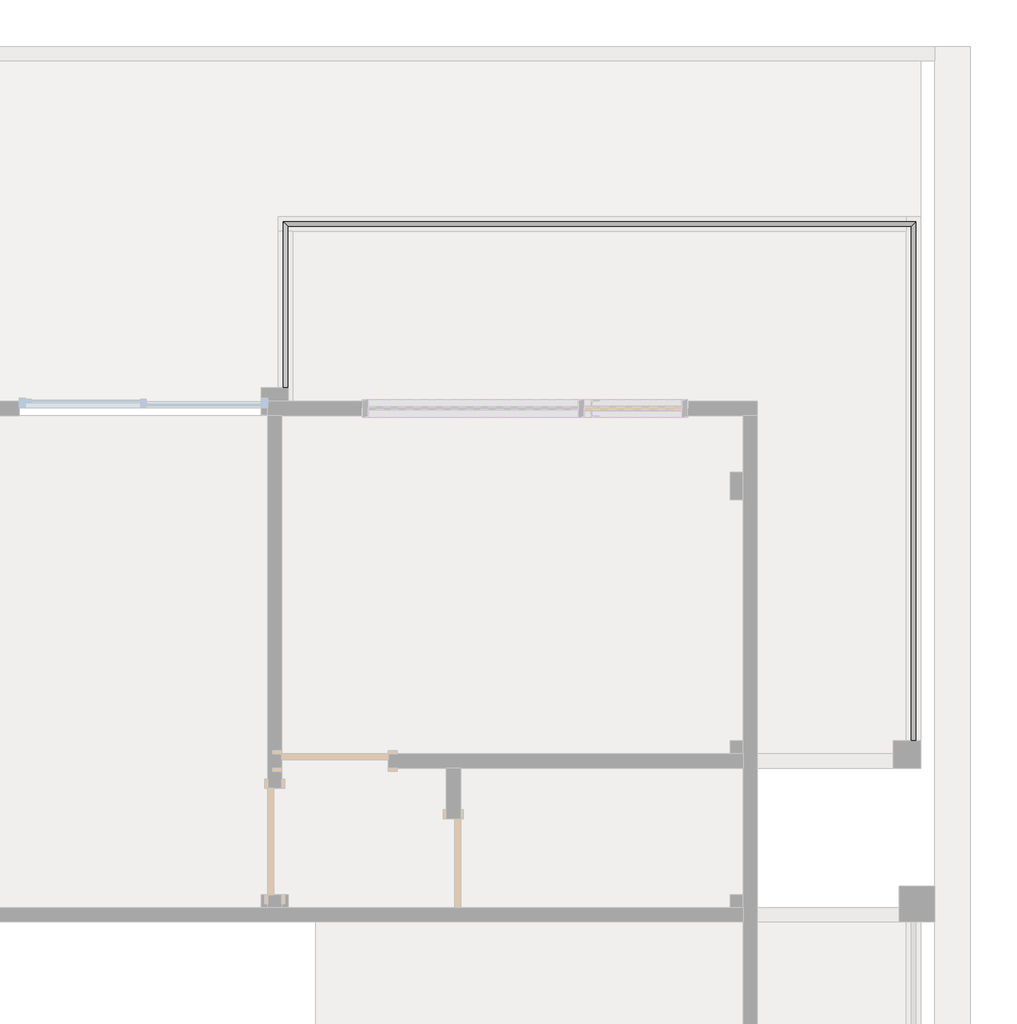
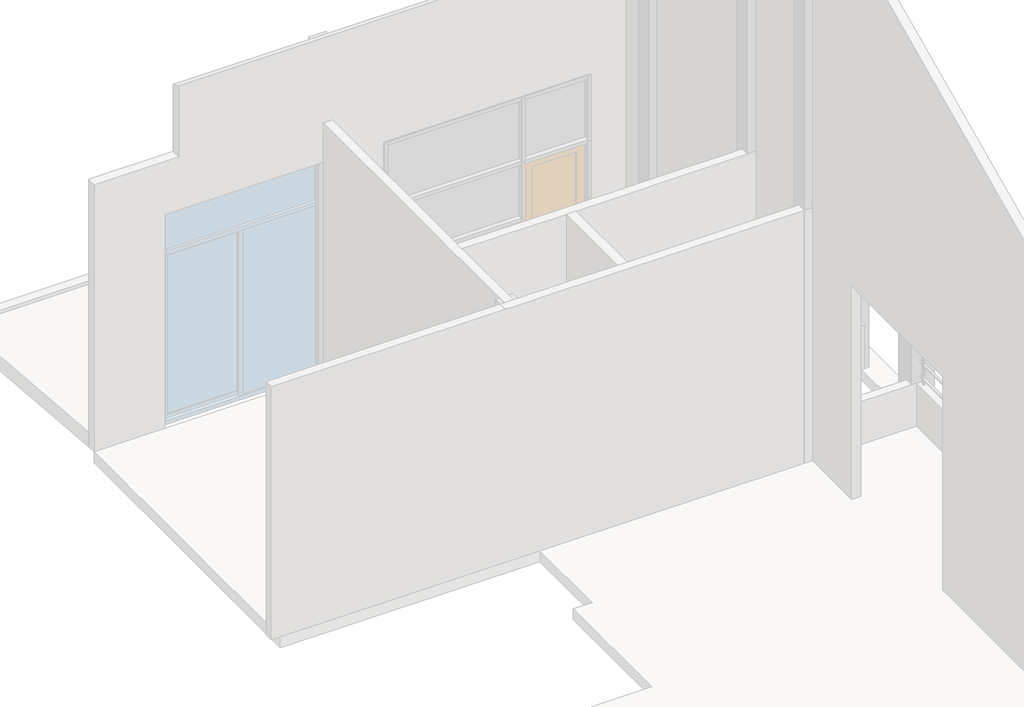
# One storey, part 6 of 6: 1 railing.
"""IFC4 building model written with IfcOpenShell, lengths in millimetres."""

from ifc_helpers import new_model, si_unit, point, frame, frame_2d, origin, place, context, project, spatial, circle_curve, ellipse_curve, trimmed, segment, composite_curve, outline, extrude, element, save
from ifc_brep_helpers import plane_surface, cylinder_surface, advanced_brep

model = new_model("IFC4")

# Units and contexts
model_context = context("Model", 3, world=origin())
ifc_project = project(units=[si_unit("LENGTHUNIT", "METRE", prefix="MILLI")], contexts=[model_context])

# Site, building, storey
site = spatial("IfcSite", under=ifc_project)
building = spatial("IfcBuilding", under=site)
storey = spatial("IfcBuildingStorey", under=building, Name="标高 2", Elevation=3900.0)

# Railing
placement = place(None, origin())
element("IfcRailing", 1, ObjectType="1100mm 圆管", at=placement, inside=storey, context=model_context, shape_type="SolidModel", body=[
    advanced_brep(
    [(4184.6008885, 10971.4406182, 4980.0), (4144.6008885, 10971.4406182, 4980.0), (4184.6008885, 12451.4406182, 4980.0), (4144.6008885, 12491.4406182, 4980.0), (9454.6008885, 12451.4406182, 4980.0), (9494.6008885, 12491.4406182, 4980.0), (9454.6008885, 8101.4406182, 4980.0), (9494.6008885, 8101.4406182, 4980.0)],
    [
        (0, 1, circle_curve(frame((4164.6008885, 10971.4406182, 4980.0), z_axis=(0.0, -1.0, 0.0), x_axis=(-1.0, 0.0, 0.0)), 20.0)),
        (1, 0, circle_curve(frame((4164.6008885, 10971.4406182, 4980.0), z_axis=(0.0, -1.0, 0.0), x_axis=(-1.0, 0.0, 0.0)), 20.0)),
        (0, 2),
        (2, 3, ellipse_curve(frame((4164.6008885, 12471.4406182, 4980.0), z_axis=(-0.7071067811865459, -0.7071067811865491, 0.0), x_axis=(0.7071067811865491, -0.7071067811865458, 0.0)), 28.2842712, 20.0)),
        (3, 1),
        (3, 2, ellipse_curve(frame((4164.6008885, 12471.4406182, 4980.0), z_axis=(-0.7071067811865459, -0.7071067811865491, 0.0), x_axis=(0.7071067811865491, -0.7071067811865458, 0.0)), 28.2842712, 20.0)),
        (2, 4),
        (4, 5, ellipse_curve(frame((9474.6008885, 12471.4406182, 4980.0), z_axis=(-0.7071067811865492, 0.7071067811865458, 0.0), x_axis=(-0.7071067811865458, -0.7071067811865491, 0.0)), 28.2842712, 20.0)),
        (5, 3),
        (5, 4, ellipse_curve(frame((9474.6008885, 12471.4406182, 4980.0), z_axis=(-0.7071067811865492, 0.7071067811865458, 0.0), x_axis=(-0.7071067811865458, -0.7071067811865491, 0.0)), 28.2842712, 20.0)),
        (6, 7, circle_curve(frame((9474.6008885, 8101.4406182, 4980.0), z_axis=(0.0, -1.0, 0.0), x_axis=(1.0, 0.0, 0.0)), 20.0)),
        (7, 6, circle_curve(frame((9474.6008885, 8101.4406182, 4980.0), z_axis=(0.0, -1.0, 0.0), x_axis=(1.0, 0.0, 0.0)), 20.0)),
        (4, 6),
        (7, 5),
    ],
    [
        plane_surface(frame((4164.6008885, 10971.4406182, 5000.0), z_axis=(0.0, -1.0, 0.0), x_axis=(0.0, 0.0, 1.0))),
        cylinder_surface(frame((4164.6008885, 10971.4406182, 4980.0), z_axis=(0.0, -1.0, 0.0), x_axis=(-1.0, 0.0, 0.0)), 20.0),
        cylinder_surface(frame((4164.6008885, 12471.4406182, 4980.0), z_axis=(-1.0, 0.0, 0.0), x_axis=(0.0, 1.0, 0.0)), 20.0),
        plane_surface(frame((9474.6008885, 8101.4406182, 5000.0), z_axis=(0.0, -1.0, 0.0), x_axis=(0.0, 0.0, -1.0))),
        cylinder_surface(frame((9474.6008885, 12471.4406182, 4980.0), z_axis=(0.0, 1.0, 0.0), x_axis=(1.0, 0.0, 0.0)), 20.0),
    ],
    [
        (0, [[1, 2]]),
        (1, [[-1, 3, 4, 5]]),
        (1, [[-2, -5, 6, -3]]),
        (2, [[-4, 7, 8, 9]]),
        (2, [[-6, -9, 10, -7]]),
        (3, [[11, 12]]),
        (4, [[-8, 13, -12, 14]]),
        (4, [[-10, -14, -11, -13]]),
    ],
),
    advanced_brep(
    [(4179.6008885, 10971.4406182, 4785.0), (4149.6008885, 10971.4406182, 4785.0), (4149.6008885, 12486.4406182, 4785.0), (4179.6008885, 12456.4406182, 4785.0), (9489.6008885, 12486.4406182, 4785.0), (9459.6008885, 12456.4406182, 4785.0), (9459.6008885, 8101.4406182, 4785.0), (9489.6008885, 8101.4406182, 4785.0)],
    [
        (0, 1, circle_curve(frame((4164.6008885, 10971.4406182, 4785.0), z_axis=(0.0, -1.0, 0.0), x_axis=(-1.0, 0.0, 0.0)), 15.0)),
        (1, 0, circle_curve(frame((4164.6008885, 10971.4406182, 4785.0), z_axis=(0.0, -1.0, 0.0), x_axis=(-1.0, 0.0, 0.0)), 15.0)),
        (1, 2),
        (2, 3, ellipse_curve(frame((4164.6008885, 12471.4406182, 4785.0), z_axis=(-0.7071067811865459, -0.7071067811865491, 0.0), x_axis=(0.7071067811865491, -0.7071067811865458, 0.0)), 21.2132034, 15.0)),
        (3, 0),
        (3, 2, ellipse_curve(frame((4164.6008885, 12471.4406182, 4785.0), z_axis=(-0.7071067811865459, -0.7071067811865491, 0.0), x_axis=(0.7071067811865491, -0.7071067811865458, 0.0)), 21.2132034, 15.0)),
        (2, 4),
        (4, 5, ellipse_curve(frame((9474.6008885, 12471.4406182, 4785.0), z_axis=(-0.7071067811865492, 0.7071067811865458, 0.0), x_axis=(-0.7071067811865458, -0.7071067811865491, 0.0)), 21.2132034, 15.0)),
        (5, 3),
        (5, 4, ellipse_curve(frame((9474.6008885, 12471.4406182, 4785.0), z_axis=(-0.7071067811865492, 0.7071067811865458, 0.0), x_axis=(-0.7071067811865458, -0.7071067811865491, 0.0)), 21.2132034, 15.0)),
        (6, 7, circle_curve(frame((9474.6008885, 8101.4406182, 4785.0), z_axis=(0.0, -1.0, 0.0), x_axis=(1.0, 0.0, 0.0)), 15.0)),
        (7, 6, circle_curve(frame((9474.6008885, 8101.4406182, 4785.0), z_axis=(0.0, -1.0, 0.0), x_axis=(1.0, 0.0, 0.0)), 15.0)),
        (4, 7),
        (6, 5),
    ],
    [
        plane_surface(frame((4164.6008885, 10971.4406182, 4800.0), z_axis=(0.0, -1.0, 0.0), x_axis=(0.0, 0.0, 1.0))),
        cylinder_surface(frame((4164.6008885, 10971.4406182, 4785.0), z_axis=(0.0, -1.0, 0.0), x_axis=(-1.0, 0.0, 0.0)), 15.0),
        cylinder_surface(frame((4164.6008885, 12471.4406182, 4785.0), z_axis=(-1.0, 0.0, 0.0), x_axis=(0.0, 1.0, 0.0)), 15.0),
        plane_surface(frame((9474.6008885, 8101.4406182, 4800.0), z_axis=(0.0, -1.0, 0.0), x_axis=(0.0, 0.0, -1.0))),
        cylinder_surface(frame((9474.6008885, 12471.4406182, 4785.0), z_axis=(0.0, 1.0, 0.0), x_axis=(1.0, 0.0, 0.0)), 15.0),
    ],
    [
        (0, [[1, 2]]),
        (1, [[-2, 3, 4, 5]]),
        (1, [[-1, -5, 6, -3]]),
        (2, [[-4, 7, 8, 9]]),
        (2, [[-6, -9, 10, -7]]),
        (3, [[11, 12]]),
        (4, [[-8, 13, -11, 14]]),
        (4, [[-10, -14, -12, -13]]),
    ],
),
    advanced_brep(
    [(4179.6008885, 10971.4406182, 4585.0), (4149.6008885, 10971.4406182, 4585.0), (4149.6008885, 12486.4406182, 4585.0), (4179.6008885, 12456.4406182, 4585.0), (9489.6008885, 12486.4406182, 4585.0), (9459.6008885, 12456.4406182, 4585.0), (9459.6008885, 8101.4406182, 4585.0), (9489.6008885, 8101.4406182, 4585.0)],
    [
        (0, 1, circle_curve(frame((4164.6008885, 10971.4406182, 4585.0), z_axis=(0.0, -1.0, 0.0), x_axis=(-1.0, 0.0, 0.0)), 15.0)),
        (1, 0, circle_curve(frame((4164.6008885, 10971.4406182, 4585.0), z_axis=(0.0, -1.0, 0.0), x_axis=(-1.0, 0.0, 0.0)), 15.0)),
        (1, 2),
        (2, 3, ellipse_curve(frame((4164.6008885, 12471.4406182, 4585.0), z_axis=(-0.7071067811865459, -0.7071067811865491, 0.0), x_axis=(0.7071067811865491, -0.7071067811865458, 0.0)), 21.2132034, 15.0)),
        (3, 0),
        (3, 2, ellipse_curve(frame((4164.6008885, 12471.4406182, 4585.0), z_axis=(-0.7071067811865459, -0.7071067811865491, 0.0), x_axis=(0.7071067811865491, -0.7071067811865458, 0.0)), 21.2132034, 15.0)),
        (2, 4),
        (4, 5, ellipse_curve(frame((9474.6008885, 12471.4406182, 4585.0), z_axis=(-0.7071067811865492, 0.7071067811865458, 0.0), x_axis=(-0.7071067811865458, -0.7071067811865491, 0.0)), 21.2132034, 15.0)),
        (5, 3),
        (5, 4, ellipse_curve(frame((9474.6008885, 12471.4406182, 4585.0), z_axis=(-0.7071067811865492, 0.7071067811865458, 0.0), x_axis=(-0.7071067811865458, -0.7071067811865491, 0.0)), 21.2132034, 15.0)),
        (6, 7, circle_curve(frame((9474.6008885, 8101.4406182, 4585.0), z_axis=(0.0, -1.0, 0.0), x_axis=(1.0, 0.0, 0.0)), 15.0)),
        (7, 6, circle_curve(frame((9474.6008885, 8101.4406182, 4585.0), z_axis=(0.0, -1.0, 0.0), x_axis=(1.0, 0.0, 0.0)), 15.0)),
        (4, 7),
        (6, 5),
    ],
    [
        plane_surface(frame((4164.6008885, 10971.4406182, 4600.0), z_axis=(0.0, -1.0, 0.0), x_axis=(0.0, 0.0, 1.0))),
        cylinder_surface(frame((4164.6008885, 10971.4406182, 4585.0), z_axis=(0.0, -1.0, 0.0), x_axis=(-1.0, 0.0, 0.0)), 15.0),
        cylinder_surface(frame((4164.6008885, 12471.4406182, 4585.0), z_axis=(-1.0, 0.0, 0.0), x_axis=(0.0, 1.0, 0.0)), 15.0),
        plane_surface(frame((9474.6008885, 8101.4406182, 4600.0), z_axis=(0.0, -1.0, 0.0), x_axis=(0.0, 0.0, -1.0))),
        cylinder_surface(frame((9474.6008885, 12471.4406182, 4585.0), z_axis=(0.0, 1.0, 0.0), x_axis=(1.0, 0.0, 0.0)), 15.0),
    ],
    [
        (0, [[1, 2]]),
        (1, [[-2, 3, 4, 5]]),
        (1, [[-1, -5, 6, -3]]),
        (2, [[-4, 7, 8, 9]]),
        (2, [[-6, -9, 10, -7]]),
        (3, [[11, 12]]),
        (4, [[-8, 13, -11, 14]]),
        (4, [[-10, -14, -12, -13]]),
    ],
),
    advanced_brep(
    [(4179.6008885, 10971.4406182, 4385.0), (4149.6008885, 10971.4406182, 4385.0), (4149.6008885, 12486.4406182, 4385.0), (4179.6008885, 12456.4406182, 4385.0), (9489.6008885, 12486.4406182, 4385.0), (9459.6008885, 12456.4406182, 4385.0), (9459.6008885, 8101.4406182, 4385.0), (9489.6008885, 8101.4406182, 4385.0)],
    [
        (0, 1, circle_curve(frame((4164.6008885, 10971.4406182, 4385.0), z_axis=(0.0, -1.0, 0.0), x_axis=(-1.0, 0.0, 0.0)), 15.0)),
        (1, 0, circle_curve(frame((4164.6008885, 10971.4406182, 4385.0), z_axis=(0.0, -1.0, 0.0), x_axis=(-1.0, 0.0, 0.0)), 15.0)),
        (1, 2),
        (2, 3, ellipse_curve(frame((4164.6008885, 12471.4406182, 4385.0), z_axis=(-0.7071067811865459, -0.7071067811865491, 0.0), x_axis=(0.7071067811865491, -0.7071067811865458, 0.0)), 21.2132034, 15.0)),
        (3, 0),
        (3, 2, ellipse_curve(frame((4164.6008885, 12471.4406182, 4385.0), z_axis=(-0.7071067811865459, -0.7071067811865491, 0.0), x_axis=(0.7071067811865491, -0.7071067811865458, 0.0)), 21.2132034, 15.0)),
        (2, 4),
        (4, 5, ellipse_curve(frame((9474.6008885, 12471.4406182, 4385.0), z_axis=(-0.7071067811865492, 0.7071067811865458, 0.0), x_axis=(-0.7071067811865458, -0.7071067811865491, 0.0)), 21.2132034, 15.0)),
        (5, 3),
        (5, 4, ellipse_curve(frame((9474.6008885, 12471.4406182, 4385.0), z_axis=(-0.7071067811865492, 0.7071067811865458, 0.0), x_axis=(-0.7071067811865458, -0.7071067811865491, 0.0)), 21.2132034, 15.0)),
        (6, 7, circle_curve(frame((9474.6008885, 8101.4406182, 4385.0), z_axis=(0.0, -1.0, 0.0), x_axis=(1.0, 0.0, 0.0)), 15.0)),
        (7, 6, circle_curve(frame((9474.6008885, 8101.4406182, 4385.0), z_axis=(0.0, -1.0, 0.0), x_axis=(1.0, 0.0, 0.0)), 15.0)),
        (4, 7),
        (6, 5),
    ],
    [
        plane_surface(frame((4164.6008885, 10971.4406182, 4400.0), z_axis=(0.0, -1.0, 0.0), x_axis=(0.0, 0.0, 1.0))),
        cylinder_surface(frame((4164.6008885, 10971.4406182, 4385.0), z_axis=(0.0, -1.0, 0.0), x_axis=(-1.0, 0.0, 0.0)), 15.0),
        cylinder_surface(frame((4164.6008885, 12471.4406182, 4385.0), z_axis=(-1.0, 0.0, 0.0), x_axis=(0.0, 1.0, 0.0)), 15.0),
        plane_surface(frame((9474.6008885, 8101.4406182, 4400.0), z_axis=(0.0, -1.0, 0.0), x_axis=(0.0, 0.0, -1.0))),
        cylinder_surface(frame((9474.6008885, 12471.4406182, 4385.0), z_axis=(0.0, 1.0, 0.0), x_axis=(1.0, 0.0, 0.0)), 15.0),
    ],
    [
        (0, [[1, 2]]),
        (1, [[-2, 3, 4, 5]]),
        (1, [[-1, -5, 6, -3]]),
        (2, [[-4, 7, 8, 9]]),
        (2, [[-6, -9, 10, -7]]),
        (3, [[11, 12]]),
        (4, [[-8, 13, -11, 14]]),
        (4, [[-10, -14, -12, -13]]),
    ],
),
    advanced_brep(
    [(4179.6008885, 10971.4406182, 4185.0), (4149.6008885, 10971.4406182, 4185.0), (4149.6008885, 12486.4406182, 4185.0), (4179.6008885, 12456.4406182, 4185.0), (9489.6008885, 12486.4406182, 4185.0), (9459.6008885, 12456.4406182, 4185.0), (9459.6008885, 8101.4406182, 4185.0), (9489.6008885, 8101.4406182, 4185.0)],
    [
        (0, 1, circle_curve(frame((4164.6008885, 10971.4406182, 4185.0), z_axis=(0.0, -1.0, 0.0), x_axis=(-1.0, 0.0, 0.0)), 15.0)),
        (1, 0, circle_curve(frame((4164.6008885, 10971.4406182, 4185.0), z_axis=(0.0, -1.0, 0.0), x_axis=(-1.0, 0.0, 0.0)), 15.0)),
        (1, 2),
        (2, 3, ellipse_curve(frame((4164.6008885, 12471.4406182, 4185.0), z_axis=(-0.7071067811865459, -0.7071067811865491, 0.0), x_axis=(0.7071067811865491, -0.7071067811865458, 0.0)), 21.2132034, 15.0)),
        (3, 0),
        (3, 2, ellipse_curve(frame((4164.6008885, 12471.4406182, 4185.0), z_axis=(-0.7071067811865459, -0.7071067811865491, 0.0), x_axis=(0.7071067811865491, -0.7071067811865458, 0.0)), 21.2132034, 15.0)),
        (2, 4),
        (4, 5, ellipse_curve(frame((9474.6008885, 12471.4406182, 4185.0), z_axis=(-0.7071067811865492, 0.7071067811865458, 0.0), x_axis=(-0.7071067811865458, -0.7071067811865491, 0.0)), 21.2132034, 15.0)),
        (5, 3),
        (5, 4, ellipse_curve(frame((9474.6008885, 12471.4406182, 4185.0), z_axis=(-0.7071067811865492, 0.7071067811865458, 0.0), x_axis=(-0.7071067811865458, -0.7071067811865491, 0.0)), 21.2132034, 15.0)),
        (6, 7, circle_curve(frame((9474.6008885, 8101.4406182, 4185.0), z_axis=(0.0, -1.0, 0.0), x_axis=(1.0, 0.0, 0.0)), 15.0)),
        (7, 6, circle_curve(frame((9474.6008885, 8101.4406182, 4185.0), z_axis=(0.0, -1.0, 0.0), x_axis=(1.0, 0.0, 0.0)), 15.0)),
        (4, 7),
        (6, 5),
    ],
    [
        plane_surface(frame((4164.6008885, 10971.4406182, 4200.0), z_axis=(0.0, -1.0, 0.0), x_axis=(0.0, 0.0, 1.0))),
        cylinder_surface(frame((4164.6008885, 10971.4406182, 4185.0), z_axis=(0.0, -1.0, 0.0), x_axis=(-1.0, 0.0, 0.0)), 15.0),
        cylinder_surface(frame((4164.6008885, 12471.4406182, 4185.0), z_axis=(-1.0, 0.0, 0.0), x_axis=(0.0, 1.0, 0.0)), 15.0),
        plane_surface(frame((9474.6008885, 8101.4406182, 4200.0), z_axis=(0.0, -1.0, 0.0), x_axis=(0.0, 0.0, -1.0))),
        cylinder_surface(frame((9474.6008885, 12471.4406182, 4185.0), z_axis=(0.0, 1.0, 0.0), x_axis=(1.0, 0.0, 0.0)), 15.0),
    ],
    [
        (0, [[1, 2]]),
        (1, [[-2, 3, 4, 5]]),
        (1, [[-1, -5, 6, -3]]),
        (2, [[-4, 7, 8, 9]]),
        (2, [[-6, -9, 10, -7]]),
        (3, [[11, 12]]),
        (4, [[-8, 13, -11, 14]]),
        (4, [[-10, -14, -12, -13]]),
    ],
),
    advanced_brep(
    [(4179.6008885, 10971.4406182, 3985.0), (4149.6008885, 10971.4406182, 3985.0), (4149.6008885, 12486.4406182, 3985.0), (4179.6008885, 12456.4406182, 3985.0), (9489.6008885, 12486.4406182, 3985.0), (9459.6008885, 12456.4406182, 3985.0), (9459.6008885, 8101.4406182, 3985.0), (9489.6008885, 8101.4406182, 3985.0)],
    [
        (0, 1, circle_curve(frame((4164.6008885, 10971.4406182, 3985.0), z_axis=(0.0, -1.0, 0.0), x_axis=(-1.0, 0.0, 0.0)), 15.0)),
        (1, 0, circle_curve(frame((4164.6008885, 10971.4406182, 3985.0), z_axis=(0.0, -1.0, 0.0), x_axis=(-1.0, 0.0, 0.0)), 15.0)),
        (1, 2),
        (2, 3, ellipse_curve(frame((4164.6008885, 12471.4406182, 3985.0), z_axis=(-0.7071067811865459, -0.7071067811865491, 0.0), x_axis=(0.7071067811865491, -0.7071067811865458, 0.0)), 21.2132034, 15.0)),
        (3, 0),
        (3, 2, ellipse_curve(frame((4164.6008885, 12471.4406182, 3985.0), z_axis=(-0.7071067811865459, -0.7071067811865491, 0.0), x_axis=(0.7071067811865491, -0.7071067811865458, 0.0)), 21.2132034, 15.0)),
        (2, 4),
        (4, 5, ellipse_curve(frame((9474.6008885, 12471.4406182, 3985.0), z_axis=(-0.7071067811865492, 0.7071067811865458, 0.0), x_axis=(-0.7071067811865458, -0.7071067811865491, 0.0)), 21.2132034, 15.0)),
        (5, 3),
        (5, 4, ellipse_curve(frame((9474.6008885, 12471.4406182, 3985.0), z_axis=(-0.7071067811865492, 0.7071067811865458, 0.0), x_axis=(-0.7071067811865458, -0.7071067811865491, 0.0)), 21.2132034, 15.0)),
        (6, 7, circle_curve(frame((9474.6008885, 8101.4406182, 3985.0), z_axis=(0.0, -1.0, 0.0), x_axis=(1.0, 0.0, 0.0)), 15.0)),
        (7, 6, circle_curve(frame((9474.6008885, 8101.4406182, 3985.0), z_axis=(0.0, -1.0, 0.0), x_axis=(1.0, 0.0, 0.0)), 15.0)),
        (4, 7),
        (6, 5),
    ],
    [
        plane_surface(frame((4164.6008885, 10971.4406182, 4000.0), z_axis=(0.0, -1.0, 0.0), x_axis=(0.0, 0.0, 1.0))),
        cylinder_surface(frame((4164.6008885, 10971.4406182, 3985.0), z_axis=(0.0, -1.0, 0.0), x_axis=(-1.0, 0.0, 0.0)), 15.0),
        cylinder_surface(frame((4164.6008885, 12471.4406182, 3985.0), z_axis=(-1.0, 0.0, 0.0), x_axis=(0.0, 1.0, 0.0)), 15.0),
        plane_surface(frame((9474.6008885, 8101.4406182, 4000.0), z_axis=(0.0, -1.0, 0.0), x_axis=(0.0, 0.0, -1.0))),
        cylinder_surface(frame((9474.6008885, 12471.4406182, 3985.0), z_axis=(0.0, 1.0, 0.0), x_axis=(1.0, 0.0, 0.0)), 15.0),
    ],
    [
        (0, [[1, 2]]),
        (1, [[-2, 3, 4, 5]]),
        (1, [[-1, -5, 6, -3]]),
        (2, [[-4, 7, 8, 9]]),
        (2, [[-6, -9, 10, -7]]),
        (3, [[11, 12]]),
        (4, [[-8, 13, -11, 14]]),
        (4, [[-10, -14, -12, -13]]),
    ],
),
    extrude(outline(composite_curve([segment(trimmed(circle_curve(frame_2d((9474.6008885, 8471.4406182)), 12.5), [point((9462.1008885, 8471.4406182))], [point((9487.1008885, 8471.4406182))], False, "CARTESIAN"), True, "CONTINUOUS"), segment(trimmed(circle_curve(frame_2d((9474.6008885, 8471.4406182)), 12.5), [point((9487.1008885, 8471.4406182))], [point((9462.1008885, 8471.4406182))], False, "CARTESIAN"), True, "CONTINUOUS")], self_intersect=False)), frame((0.0, 0.0, 3900.0), z_axis=(0.0, 0.0, 1.0), x_axis=(1.0, 0.0, 0.0)), (0.0, 0.0, 1.0), 1060.0),
    extrude(outline(composite_curve([segment(trimmed(circle_curve(frame_2d((9474.6008885, 9471.4406182)), 12.5), [point((9462.1008885, 9471.4406182))], [point((9487.1008885, 9471.4406182))], False, "CARTESIAN"), True, "CONTINUOUS"), segment(trimmed(circle_curve(frame_2d((9474.6008885, 9471.4406182)), 12.5), [point((9487.1008885, 9471.4406182))], [point((9462.1008885, 9471.4406182))], False, "CARTESIAN"), True, "CONTINUOUS")], self_intersect=False)), frame((0.0, 0.0, 3900.0), z_axis=(0.0, 0.0, 1.0), x_axis=(1.0, 0.0, 0.0)), (0.0, 0.0, 1.0), 1060.0),
    extrude(outline(composite_curve([segment(trimmed(circle_curve(frame_2d((9474.6008885, 10471.4406182)), 12.5), [point((9462.1008885, 10471.4406182))], [point((9487.1008885, 10471.4406182))], False, "CARTESIAN"), True, "CONTINUOUS"), segment(trimmed(circle_curve(frame_2d((9474.6008885, 10471.4406182)), 12.5), [point((9487.1008885, 10471.4406182))], [point((9462.1008885, 10471.4406182))], False, "CARTESIAN"), True, "CONTINUOUS")], self_intersect=False)), frame((0.0, 0.0, 3900.0), z_axis=(0.0, 0.0, 1.0), x_axis=(1.0, 0.0, 0.0)), (0.0, 0.0, 1.0), 1060.0),
    extrude(outline(composite_curve([segment(trimmed(circle_curve(frame_2d((9474.6008885, 11471.4406182)), 12.5), [point((9462.1008885, 11471.4406182))], [point((9487.1008885, 11471.4406182))], False, "CARTESIAN"), True, "CONTINUOUS"), segment(trimmed(circle_curve(frame_2d((9474.6008885, 11471.4406182)), 12.5), [point((9487.1008885, 11471.4406182))], [point((9462.1008885, 11471.4406182))], False, "CARTESIAN"), True, "CONTINUOUS")], self_intersect=False)), frame((0.0, 0.0, 3900.0), z_axis=(0.0, 0.0, 1.0), x_axis=(1.0, 0.0, 0.0)), (0.0, 0.0, 1.0), 1060.0),
    extrude(outline(composite_curve([segment(trimmed(circle_curve(frame_2d((9164.6008885, 12471.4406182)), 12.5), [point((9164.6008885, 12458.9406182))], [point((9164.6008885, 12483.9406182))], False, "CARTESIAN"), True, "CONTINUOUS"), segment(trimmed(circle_curve(frame_2d((9164.6008885, 12471.4406182)), 12.5), [point((9164.6008885, 12483.9406182))], [point((9164.6008885, 12458.9406182))], False, "CARTESIAN"), True, "CONTINUOUS")], self_intersect=False)), frame((0.0, 0.0, 3900.0), z_axis=(0.0, 0.0, 1.0), x_axis=(1.0, 0.0, 0.0)), (0.0, 0.0, 1.0), 1060.0),
    extrude(outline(composite_curve([segment(trimmed(circle_curve(frame_2d((8164.6008885, 12471.4406182)), 12.5), [point((8164.6008885, 12458.9406182))], [point((8164.6008885, 12483.9406182))], False, "CARTESIAN"), True, "CONTINUOUS"), segment(trimmed(circle_curve(frame_2d((8164.6008885, 12471.4406182)), 12.5), [point((8164.6008885, 12483.9406182))], [point((8164.6008885, 12458.9406182))], False, "CARTESIAN"), True, "CONTINUOUS")], self_intersect=False)), frame((0.0, 0.0, 3900.0), z_axis=(0.0, 0.0, 1.0), x_axis=(1.0, 0.0, 0.0)), (0.0, 0.0, 1.0), 1060.0),
    extrude(outline(composite_curve([segment(trimmed(circle_curve(frame_2d((7164.6008885, 12471.4406182)), 12.5), [point((7164.6008885, 12458.9406182))], [point((7164.6008885, 12483.9406182))], False, "CARTESIAN"), True, "CONTINUOUS"), segment(trimmed(circle_curve(frame_2d((7164.6008885, 12471.4406182)), 12.5), [point((7164.6008885, 12483.9406182))], [point((7164.6008885, 12458.9406182))], False, "CARTESIAN"), True, "CONTINUOUS")], self_intersect=False)), frame((0.0, 0.0, 3900.0), z_axis=(0.0, 0.0, 1.0), x_axis=(1.0, 0.0, 0.0)), (0.0, 0.0, 1.0), 1060.0),
    extrude(outline(composite_curve([segment(trimmed(circle_curve(frame_2d((6164.6008885, 12471.4406182)), 12.5), [point((6164.6008885, 12458.9406182))], [point((6164.6008885, 12483.9406182))], False, "CARTESIAN"), True, "CONTINUOUS"), segment(trimmed(circle_curve(frame_2d((6164.6008885, 12471.4406182)), 12.5), [point((6164.6008885, 12483.9406182))], [point((6164.6008885, 12458.9406182))], False, "CARTESIAN"), True, "CONTINUOUS")], self_intersect=False)), frame((0.0, 0.0, 3900.0), z_axis=(0.0, 0.0, 1.0), x_axis=(1.0, 0.0, 0.0)), (0.0, 0.0, 1.0), 1060.0),
    extrude(outline(composite_curve([segment(trimmed(circle_curve(frame_2d((5164.6008885, 12471.4406182)), 12.5), [point((5164.6008885, 12458.9406182))], [point((5164.6008885, 12483.9406182))], False, "CARTESIAN"), True, "CONTINUOUS"), segment(trimmed(circle_curve(frame_2d((5164.6008885, 12471.4406182)), 12.5), [point((5164.6008885, 12483.9406182))], [point((5164.6008885, 12458.9406182))], False, "CARTESIAN"), True, "CONTINUOUS")], self_intersect=False)), frame((0.0, 0.0, 3900.0), z_axis=(0.0, 0.0, 1.0), x_axis=(1.0, 0.0, 0.0)), (0.0, 0.0, 1.0), 1060.0),
    extrude(outline(composite_curve([segment(trimmed(circle_curve(frame_2d((4164.6008885, 11971.4406182)), 12.5), [point((4177.1008885, 11971.4406182))], [point((4152.1008885, 11971.4406182))], False, "CARTESIAN"), True, "CONTINUOUS"), segment(trimmed(circle_curve(frame_2d((4164.6008885, 11971.4406182)), 12.5), [point((4152.1008885, 11971.4406182))], [point((4177.1008885, 11971.4406182))], False, "CARTESIAN"), True, "CONTINUOUS")], self_intersect=False)), frame((0.0, 0.0, 3900.0), z_axis=(0.0, 0.0, 1.0), x_axis=(1.0, 0.0, 0.0)), (0.0, 0.0, 1.0), 1060.0),
    extrude(outline(composite_curve([segment(trimmed(circle_curve(frame_2d((9474.6008885, 12471.4406182)), 12.5), [point((9474.6008885, 12458.9406182))], [point((9474.6008885, 12483.9406182))], False, "CARTESIAN"), True, "CONTINUOUS"), segment(trimmed(circle_curve(frame_2d((9474.6008885, 12471.4406182)), 12.5), [point((9474.6008885, 12483.9406182))], [point((9474.6008885, 12458.9406182))], False, "CARTESIAN"), True, "CONTINUOUS")], self_intersect=False)), frame((0.0, 0.0, 3900.0), z_axis=(0.0, 0.0, 1.0), x_axis=(1.0, 0.0, 0.0)), (0.0, 0.0, 1.0), 1060.0),
    extrude(outline(composite_curve([segment(trimmed(circle_curve(frame_2d((4164.6008885, 12471.4406182)), 12.5), [point((4177.1008885, 12471.4406182))], [point((4152.1008885, 12471.4406182))], False, "CARTESIAN"), True, "CONTINUOUS"), segment(trimmed(circle_curve(frame_2d((4164.6008885, 12471.4406182)), 12.5), [point((4152.1008885, 12471.4406182))], [point((4177.1008885, 12471.4406182))], False, "CARTESIAN"), True, "CONTINUOUS")], self_intersect=False)), frame((0.0, 0.0, 3900.0), z_axis=(0.0, 0.0, 1.0), x_axis=(1.0, 0.0, 0.0)), (0.0, 0.0, 1.0), 1060.0),
    extrude(outline(composite_curve([segment(trimmed(circle_curve(frame_2d((9474.6008885, 8113.9406182)), 12.5), [point((9462.1008885, 8113.9406182))], [point((9487.1008885, 8113.9406182))], False, "CARTESIAN"), True, "CONTINUOUS"), segment(trimmed(circle_curve(frame_2d((9474.6008885, 8113.9406182)), 12.5), [point((9487.1008885, 8113.9406182))], [point((9462.1008885, 8113.9406182))], False, "CARTESIAN"), True, "CONTINUOUS")], self_intersect=False)), frame((0.0, 0.0, 3900.0), z_axis=(0.0, 0.0, 1.0), x_axis=(1.0, 0.0, 0.0)), (0.0, 0.0, 1.0), 1060.0),
    extrude(outline(composite_curve([segment(trimmed(circle_curve(frame_2d((4164.6008885, 10983.9406182)), 12.5), [point((4177.1008885, 10983.9406182))], [point((4152.1008885, 10983.9406182))], False, "CARTESIAN"), True, "CONTINUOUS"), segment(trimmed(circle_curve(frame_2d((4164.6008885, 10983.9406182)), 12.5), [point((4152.1008885, 10983.9406182))], [point((4177.1008885, 10983.9406182))], False, "CARTESIAN"), True, "CONTINUOUS")], self_intersect=False)), frame((0.0, 0.0, 3900.0), z_axis=(0.0, 0.0, 1.0), x_axis=(1.0, 0.0, 0.0)), (0.0, 0.0, 1.0), 1060.0),
])

save(model, "model.ifc")
